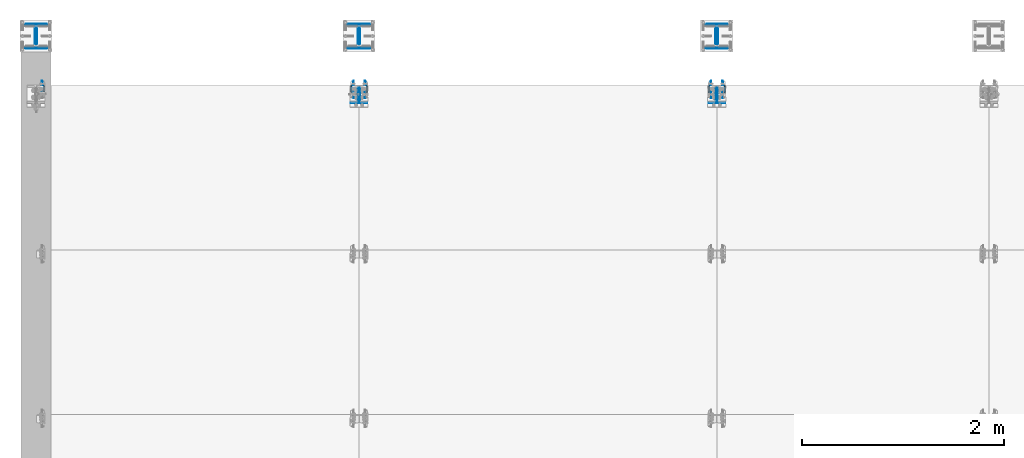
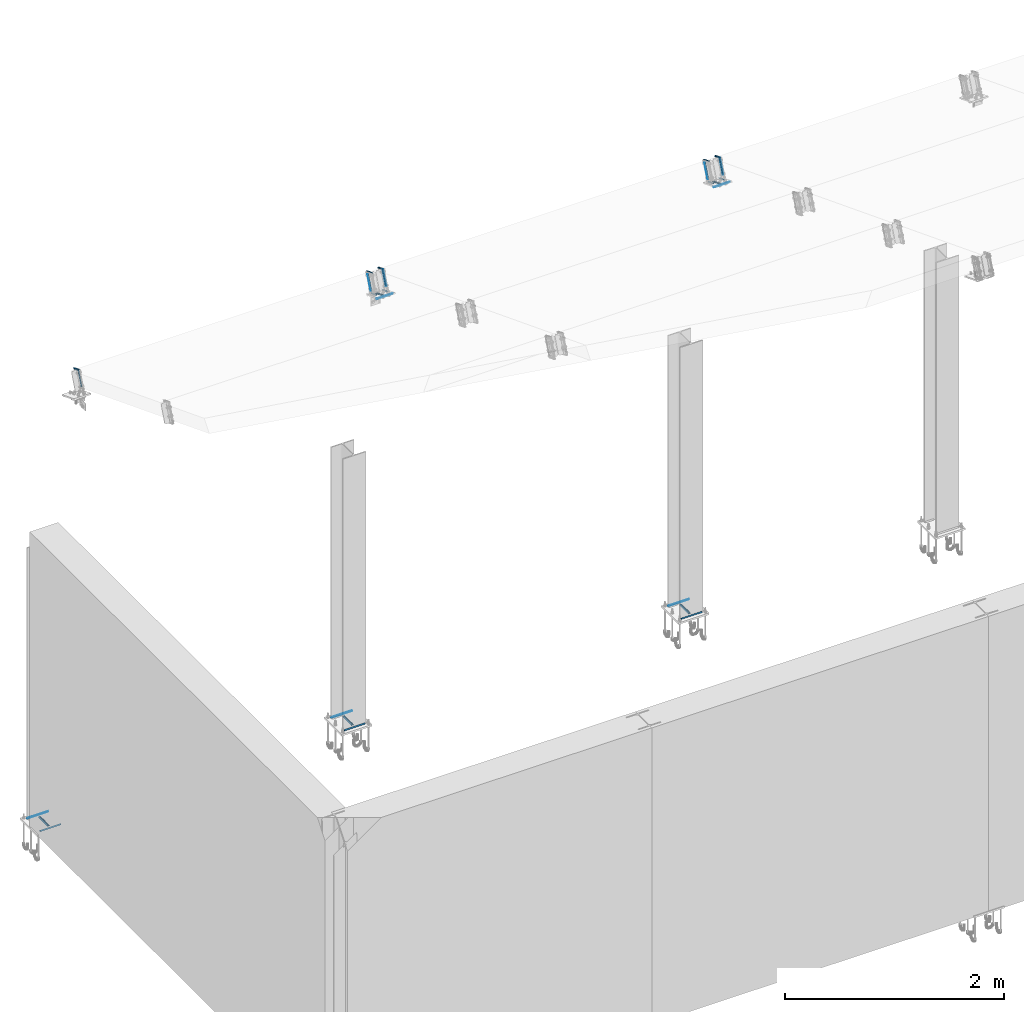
# One storey, part 15 of 72: 63 fasteners.
"""IFC4 building model written with IfcOpenShell, lengths in metres."""

from ifc_helpers import new_model, si_unit, frame, origin_with_axes, place, context, project, spatial, polyline, outline, extrude, type_object, element, save


model = new_model("IFC4")

# Units and contexts
model_context = context("Model", 3, precision=1e-05, world=origin_with_axes())
ifc_project = project(units=[si_unit("LENGTHUNIT", "METRE"), si_unit("AREAUNIT", "SQUARE_METRE"), si_unit("VOLUMEUNIT", "CUBIC_METRE"), si_unit("MASSUNIT", "GRAM", prefix="KILO"), si_unit("TIMEUNIT", "SECOND"), si_unit("PLANEANGLEUNIT", "RADIAN"), si_unit("SOLIDANGLEUNIT", "STERADIAN"), si_unit("THERMODYNAMICTEMPERATUREUNIT", "DEGREE_CELSIUS")], contexts=[model_context])

# Site, building, storey
placement_1 = place(None, origin_with_axes())
site = spatial("IfcSite", under=ifc_project, at=placement_1, Name="Italia", CompositionType="ELEMENT")
building = spatial("IfcBuilding", under=site, at=placement_1, Name="Uffici", CompositionType="ELEMENT")
storey = spatial("IfcBuildingStorey", under=building, at=placement_1, Name="Storey 0", CompositionType="ELEMENT", Elevation=0.0)

# Fasteners
fastener_type_1 = type_object("IfcFastenerType", Name="Collegamenti 0001_0101 0002_0102 0003_0103 0004_0104 0005_0105 0011_0111 0012_0112 0013_0113 0014_0114 0015_0115", PredefinedType="WELD")
placement_2 = place(placement_1, origin_with_axes())
fastener_1_placement = place(placement_2, origin_with_axes())
element("IfcFastener", 1, at=fastener_1_placement, inside=storey, type_object=fastener_type_1, Name="Collegamenti 0001_0101 0002_0102 0003_0103 0004_0104 0005_0105 0011_0111 0012_0112 0013_0113 0014_0114 0015_0115", context=model_context, shape_type="SweptSolid", body=[
    extrude(outline(polyline([(0.0, 0.0), (0.00986814, 0.0101734), (0.00986814, 0.0), (0.0, 0.0)])), frame((0.11005, 5.51482, 0.01995), z_axis=(-1.0, 0.0, 0.0), x_axis=(0.0, -1.0, 0.0)), (0.0, 0.0, 1.0), 0.2201),
])
fastener_type_2 = type_object("IfcFastenerType", Name="Collegamenti 0001_0101 0002_0102 0003_0103 0004_0104 0005_0105 0011_0111 0012_0112 0013_0113 0014_0114 0015_0115", PredefinedType="WELD")
fastener_2_placement = place(placement_2, origin_with_axes())
element("IfcFastener", 2, at=fastener_2_placement, inside=storey, type_object=fastener_type_2, Name="Collegamenti 0001_0101 0002_0102 0003_0103 0004_0104 0005_0105 0011_0111 0012_0112 0013_0113 0014_0114 0015_0115", context=model_context, shape_type="SweptSolid", body=[
    extrude(outline(polyline([(0.0, 0.0), (0.00986814, 0.0101734), (0.00986814, 0.0), (0.0, 0.0)])), frame((-0.11005, 5.26518, 0.01995), z_axis=(1.0, 0.0, 0.0), x_axis=(0.0, 1.0, 0.0)), (0.0, 0.0, 1.0), 0.2201),
])
fastener_type_3 = type_object("IfcFastenerType", Name="Collegamenti 0001_0101 0002_0102 0003_0103 0004_0104 0005_0105 0011_0111 0012_0112 0013_0113 0014_0114 0015_0115", PredefinedType="WELD")
fastener_3_placement = place(placement_2, origin_with_axes())
element("IfcFastener", 3, at=fastener_3_placement, inside=storey, type_object=fastener_type_3, Name="Collegamenti 0001_0101 0002_0102 0003_0103 0004_0104 0005_0105 0011_0111 0012_0112 0013_0113 0014_0114 0015_0115", context=model_context, shape_type="SweptSolid", body=[
    extrude(outline(polyline([(0.0, 0.0), (0.00986816, 0.0101734), (0.00986816, 0.0), (0.0, 0.0)])), frame((0.0135682, 5.30795, 0.01995), z_axis=(1.1350692e-08, 1.0, 0.0), x_axis=(-1.0, 1.1350692e-08, 0.0)), (0.0, 0.0, 1.0), 0.1641),
])
fastener_type_4 = type_object("IfcFastenerType", Name="Collegamenti 0001_0101 0002_0102 0003_0103 0004_0104 0005_0105 0011_0111 0012_0112 0013_0113 0014_0114 0015_0115", PredefinedType="WELD")
fastener_4_placement = place(placement_2, origin_with_axes())
element("IfcFastener", 4, at=fastener_4_placement, inside=storey, type_object=fastener_type_4, Name="Collegamenti 0001_0101 0002_0102 0003_0103 0004_0104 0005_0105 0011_0111 0012_0112 0013_0113 0014_0114 0015_0115", context=model_context, shape_type="SweptSolid", body=[
    extrude(outline(polyline([(0.0, 0.0), (0.00986816, 0.0101734), (0.00986816, 0.0), (0.0, 0.0)])), frame((-0.0135682, 5.47205, 0.01995), z_axis=(-1.1350692e-08, -1.0, 0.0), x_axis=(1.0, -1.1350692e-08, 0.0)), (0.0, 0.0, 1.0), 0.1641),
])
fastener_type_5 = type_object("IfcFastenerType", Name="Collegamenti 0001_0101 0002_0102 0003_0103 0004_0104 0005_0105 0011_0111 0012_0112 0013_0113 0014_0114 0015_0115", PredefinedType="WELD")
fastener_5_placement = place(placement_2, origin_with_axes())
element("IfcFastener", 5, at=fastener_5_placement, inside=storey, type_object=fastener_type_5, Name="Collegamenti 0001_0101 0002_0102 0003_0103 0004_0104 0005_0105 0011_0111 0012_0112 0013_0113 0014_0114 0015_0115", context=model_context, shape_type="SweptSolid", body=[
    extrude(outline(polyline([(0.0, 0.0), (0.00986814, 0.0101734), (0.00986814, 0.0), (0.0, 0.0)])), frame((0.11005, 5.51482, 0.01995), z_axis=(-1.0, 0.0, 0.0), x_axis=(0.0, -1.0, 0.0)), (0.0, 0.0, 1.0), 0.2201),
])
fastener_type_6 = type_object("IfcFastenerType", Name="Collegamenti 0001_0101 0002_0102 0003_0103 0004_0104 0005_0105 0011_0111 0012_0112 0013_0113 0014_0114 0015_0115", PredefinedType="WELD")
fastener_6_placement = place(placement_2, origin_with_axes())
element("IfcFastener", 6, at=fastener_6_placement, inside=storey, type_object=fastener_type_6, Name="Collegamenti 0001_0101 0002_0102 0003_0103 0004_0104 0005_0105 0011_0111 0012_0112 0013_0113 0014_0114 0015_0115", context=model_context, shape_type="SweptSolid", body=[
    extrude(outline(polyline([(0.0, 0.0), (0.00986814, 0.0101734), (0.00986814, 0.0), (0.0, 0.0)])), frame((-0.11005, 5.26518, 0.01995), z_axis=(1.0, 0.0, 0.0), x_axis=(0.0, 1.0, 0.0)), (0.0, 0.0, 1.0), 0.2201),
])
fastener_type_7 = type_object("IfcFastenerType", Name="Collegamenti 0001_0101 0002_0102 0003_0103 0004_0104 0005_0105 0011_0111 0012_0112 0013_0113 0014_0114 0015_0115", PredefinedType="WELD")
fastener_7_placement = place(placement_2, origin_with_axes())
element("IfcFastener", 7, at=fastener_7_placement, inside=storey, type_object=fastener_type_7, Name="Collegamenti 0001_0101 0002_0102 0003_0103 0004_0104 0005_0105 0011_0111 0012_0112 0013_0113 0014_0114 0015_0115", context=model_context, shape_type="SweptSolid", body=[
    extrude(outline(polyline([(0.0, 0.0), (0.00986816, 0.0101734), (0.00986816, 0.0), (0.0, 0.0)])), frame((0.0135682, 5.30795, 0.01995), z_axis=(1.1350692e-08, 1.0, 0.0), x_axis=(-1.0, 1.1350692e-08, 0.0)), (0.0, 0.0, 1.0), 0.1641),
])
fastener_type_8 = type_object("IfcFastenerType", Name="Collegamenti 0001_0101 0002_0102 0003_0103 0004_0104 0005_0105 0011_0111 0012_0112 0013_0113 0014_0114 0015_0115", PredefinedType="WELD")
fastener_8_placement = place(placement_2, origin_with_axes())
element("IfcFastener", 8, at=fastener_8_placement, inside=storey, type_object=fastener_type_8, Name="Collegamenti 0001_0101 0002_0102 0003_0103 0004_0104 0005_0105 0011_0111 0012_0112 0013_0113 0014_0114 0015_0115", context=model_context, shape_type="SweptSolid", body=[
    extrude(outline(polyline([(0.0, 0.0), (0.00986816, 0.0101734), (0.00986816, 0.0), (0.0, 0.0)])), frame((-0.0135682, 5.47205, 0.01995), z_axis=(-1.1350692e-08, -1.0, 0.0), x_axis=(1.0, -1.1350692e-08, 0.0)), (0.0, 0.0, 1.0), 0.1641),
])
fastener_type_9 = type_object("IfcFastenerType", Name="Collegamenti 0001_0101 0002_0102 0003_0103 0004_0104 0005_0105 0011_0111 0012_0112 0013_0113 0014_0114 0015_0115", PredefinedType="WELD")
fastener_9_placement = place(placement_2, origin_with_axes())
element("IfcFastener", 9, at=fastener_9_placement, inside=storey, type_object=fastener_type_9, Name="Collegamenti 0001_0101 0002_0102 0003_0103 0004_0104 0005_0105 0011_0111 0012_0112 0013_0113 0014_0114 0015_0115", context=model_context, shape_type="SweptSolid", body=[
    extrude(outline(polyline([(0.0, 0.0), (0.00986814, 0.0101734), (0.00986814, 0.0), (0.0, 0.0)])), frame((3.31505, 5.51482, 0.01995), z_axis=(-1.0, 0.0, 0.0), x_axis=(0.0, -1.0, 0.0)), (0.0, 0.0, 1.0), 0.2201),
])
fastener_type_10 = type_object("IfcFastenerType", Name="Collegamenti 0001_0101 0002_0102 0003_0103 0004_0104 0005_0105 0011_0111 0012_0112 0013_0113 0014_0114 0015_0115", PredefinedType="WELD")
fastener_10_placement = place(placement_2, origin_with_axes())
element("IfcFastener", 10, at=fastener_10_placement, inside=storey, type_object=fastener_type_10, Name="Collegamenti 0001_0101 0002_0102 0003_0103 0004_0104 0005_0105 0011_0111 0012_0112 0013_0113 0014_0114 0015_0115", context=model_context, shape_type="SweptSolid", body=[
    extrude(outline(polyline([(0.0, 0.0), (0.00986814, 0.0101734), (0.00986814, 0.0), (0.0, 0.0)])), frame((3.09495, 5.26518, 0.01995), z_axis=(1.0, 0.0, 0.0), x_axis=(0.0, 1.0, 0.0)), (0.0, 0.0, 1.0), 0.2201),
])
fastener_type_11 = type_object("IfcFastenerType", Name="Collegamenti 0001_0101 0002_0102 0003_0103 0004_0104 0005_0105 0011_0111 0012_0112 0013_0113 0014_0114 0015_0115", PredefinedType="WELD")
fastener_11_placement = place(placement_2, origin_with_axes())
element("IfcFastener", 11, at=fastener_11_placement, inside=storey, type_object=fastener_type_11, Name="Collegamenti 0001_0101 0002_0102 0003_0103 0004_0104 0005_0105 0011_0111 0012_0112 0013_0113 0014_0114 0015_0115", context=model_context, shape_type="SweptSolid", body=[
    extrude(outline(polyline([(0.0, 0.0), (0.00986814, 0.0101734), (0.00986814, 0.0), (0.0, 0.0)])), frame((3.21857, 5.30795, 0.01995), z_axis=(0.0, 1.0, 0.0), x_axis=(-1.0, 0.0, 0.0)), (0.0, 0.0, 1.0), 0.1641),
])
fastener_type_12 = type_object("IfcFastenerType", Name="Collegamenti 0001_0101 0002_0102 0003_0103 0004_0104 0005_0105 0011_0111 0012_0112 0013_0113 0014_0114 0015_0115", PredefinedType="WELD")
fastener_12_placement = place(placement_2, origin_with_axes())
element("IfcFastener", 12, at=fastener_12_placement, inside=storey, type_object=fastener_type_12, Name="Collegamenti 0001_0101 0002_0102 0003_0103 0004_0104 0005_0105 0011_0111 0012_0112 0013_0113 0014_0114 0015_0115", context=model_context, shape_type="SweptSolid", body=[
    extrude(outline(polyline([(0.0, 0.0), (0.00986814, 0.0101734), (0.00986814, 0.0), (0.0, 0.0)])), frame((3.19143, 5.47205, 0.01995), z_axis=(0.0, -1.0, 0.0), x_axis=(1.0, 0.0, 0.0)), (0.0, 0.0, 1.0), 0.1641),
])
fastener_type_13 = type_object("IfcFastenerType", Name="Collegamenti 0001_0101 0002_0102 0003_0103 0004_0104 0005_0105 0011_0111 0012_0112 0013_0113 0014_0114 0015_0115", PredefinedType="WELD")
fastener_13_placement = place(placement_2, origin_with_axes())
element("IfcFastener", 13, at=fastener_13_placement, inside=storey, type_object=fastener_type_13, Name="Collegamenti 0001_0101 0002_0102 0003_0103 0004_0104 0005_0105 0011_0111 0012_0112 0013_0113 0014_0114 0015_0115", context=model_context, shape_type="SweptSolid", body=[
    extrude(outline(polyline([(0.0, 0.0), (0.00986814, 0.0101734), (0.00986814, 0.0), (0.0, 0.0)])), frame((3.31505, 5.51482, 0.01995), z_axis=(-1.0, 0.0, 0.0), x_axis=(0.0, -1.0, 0.0)), (0.0, 0.0, 1.0), 0.2201),
])
fastener_type_14 = type_object("IfcFastenerType", Name="Collegamenti 0001_0101 0002_0102 0003_0103 0004_0104 0005_0105 0011_0111 0012_0112 0013_0113 0014_0114 0015_0115", PredefinedType="WELD")
fastener_14_placement = place(placement_2, origin_with_axes())
element("IfcFastener", 14, at=fastener_14_placement, inside=storey, type_object=fastener_type_14, Name="Collegamenti 0001_0101 0002_0102 0003_0103 0004_0104 0005_0105 0011_0111 0012_0112 0013_0113 0014_0114 0015_0115", context=model_context, shape_type="SweptSolid", body=[
    extrude(outline(polyline([(0.0, 0.0), (0.00986814, 0.0101734), (0.00986814, 0.0), (0.0, 0.0)])), frame((3.09495, 5.26518, 0.01995), z_axis=(1.0, 0.0, 0.0), x_axis=(0.0, 1.0, 0.0)), (0.0, 0.0, 1.0), 0.2201),
])
fastener_type_15 = type_object("IfcFastenerType", Name="Collegamenti 0001_0101 0002_0102 0003_0103 0004_0104 0005_0105 0011_0111 0012_0112 0013_0113 0014_0114 0015_0115", PredefinedType="WELD")
fastener_15_placement = place(placement_2, origin_with_axes())
element("IfcFastener", 15, at=fastener_15_placement, inside=storey, type_object=fastener_type_15, Name="Collegamenti 0001_0101 0002_0102 0003_0103 0004_0104 0005_0105 0011_0111 0012_0112 0013_0113 0014_0114 0015_0115", context=model_context, shape_type="SweptSolid", body=[
    extrude(outline(polyline([(0.0, 0.0), (0.00986814, 0.0101734), (0.00986814, 0.0), (0.0, 0.0)])), frame((3.21857, 5.30795, 0.01995), z_axis=(0.0, 1.0, 0.0), x_axis=(-1.0, 0.0, 0.0)), (0.0, 0.0, 1.0), 0.1641),
])
fastener_type_16 = type_object("IfcFastenerType", Name="Collegamenti 0001_0101 0002_0102 0003_0103 0004_0104 0005_0105 0011_0111 0012_0112 0013_0113 0014_0114 0015_0115", PredefinedType="WELD")
fastener_16_placement = place(placement_2, origin_with_axes())
element("IfcFastener", 16, at=fastener_16_placement, inside=storey, type_object=fastener_type_16, Name="Collegamenti 0001_0101 0002_0102 0003_0103 0004_0104 0005_0105 0011_0111 0012_0112 0013_0113 0014_0114 0015_0115", context=model_context, shape_type="SweptSolid", body=[
    extrude(outline(polyline([(0.0, 0.0), (0.00986814, 0.0101734), (0.00986814, 0.0), (0.0, 0.0)])), frame((3.19143, 5.47205, 0.01995), z_axis=(0.0, -1.0, 0.0), x_axis=(1.0, 0.0, 0.0)), (0.0, 0.0, 1.0), 0.1641),
])
fastener_type_17 = type_object("IfcFastenerType", Name="Collegamenti 0001_0101 0002_0102 0003_0103 0004_0104 0005_0105 0011_0111 0012_0112 0013_0113 0014_0114 0015_0115", PredefinedType="WELD")
fastener_17_placement = place(placement_2, origin_with_axes())
element("IfcFastener", 17, at=fastener_17_placement, inside=storey, type_object=fastener_type_17, Name="Collegamenti 0001_0101 0002_0102 0003_0103 0004_0104 0005_0105 0011_0111 0012_0112 0013_0113 0014_0114 0015_0115", context=model_context, shape_type="SweptSolid", body=[
    extrude(outline(polyline([(0.0, 0.0), (0.00986814, 0.0101734), (0.00986814, 0.0), (0.0, 0.0)])), frame((6.86505, 5.51482, 0.01995), z_axis=(-1.0, 0.0, 0.0), x_axis=(0.0, -1.0, 0.0)), (0.0, 0.0, 1.0), 0.2201),
])
fastener_type_18 = type_object("IfcFastenerType", Name="Collegamenti 0001_0101 0002_0102 0003_0103 0004_0104 0005_0105 0011_0111 0012_0112 0013_0113 0014_0114 0015_0115", PredefinedType="WELD")
fastener_18_placement = place(placement_2, origin_with_axes())
element("IfcFastener", 18, at=fastener_18_placement, inside=storey, type_object=fastener_type_18, Name="Collegamenti 0001_0101 0002_0102 0003_0103 0004_0104 0005_0105 0011_0111 0012_0112 0013_0113 0014_0114 0015_0115", context=model_context, shape_type="SweptSolid", body=[
    extrude(outline(polyline([(0.0, 0.0), (0.00986814, 0.0101734), (0.00986814, 0.0), (0.0, 0.0)])), frame((6.64495, 5.26518, 0.01995), z_axis=(1.0, 0.0, 0.0), x_axis=(0.0, 1.0, 0.0)), (0.0, 0.0, 1.0), 0.2201),
])
fastener_type_19 = type_object("IfcFastenerType", Name="Collegamenti 0001_0101 0002_0102 0003_0103 0004_0104 0005_0105 0011_0111 0012_0112 0013_0113 0014_0114 0015_0115", PredefinedType="WELD")
fastener_19_placement = place(placement_2, origin_with_axes())
element("IfcFastener", 19, at=fastener_19_placement, inside=storey, type_object=fastener_type_19, Name="Collegamenti 0001_0101 0002_0102 0003_0103 0004_0104 0005_0105 0011_0111 0012_0112 0013_0113 0014_0114 0015_0115", context=model_context, shape_type="SweptSolid", body=[
    extrude(outline(polyline([(0.0, 0.0), (0.00986814, 0.0101734), (0.00986814, 0.0), (0.0, 0.0)])), frame((6.76857, 5.30795, 0.01995), z_axis=(0.0, 1.0, 0.0), x_axis=(-1.0, 0.0, 0.0)), (0.0, 0.0, 1.0), 0.1641),
])
fastener_type_20 = type_object("IfcFastenerType", Name="Collegamenti 0001_0101 0002_0102 0003_0103 0004_0104 0005_0105 0011_0111 0012_0112 0013_0113 0014_0114 0015_0115", PredefinedType="WELD")
fastener_20_placement = place(placement_2, origin_with_axes())
element("IfcFastener", 20, at=fastener_20_placement, inside=storey, type_object=fastener_type_20, Name="Collegamenti 0001_0101 0002_0102 0003_0103 0004_0104 0005_0105 0011_0111 0012_0112 0013_0113 0014_0114 0015_0115", context=model_context, shape_type="SweptSolid", body=[
    extrude(outline(polyline([(0.0, 0.0), (0.00986814, 0.0101734), (0.00986814, 0.0), (0.0, 0.0)])), frame((6.74143, 5.47205, 0.01995), z_axis=(0.0, -1.0, 0.0), x_axis=(1.0, 0.0, 0.0)), (0.0, 0.0, 1.0), 0.1641),
])
fastener_type_21 = type_object("IfcFastenerType", Name="Collegamenti 0001_0101 0002_0102 0003_0103 0004_0104 0005_0105 0011_0111 0012_0112 0013_0113 0014_0114 0015_0115", PredefinedType="WELD")
fastener_21_placement = place(placement_2, origin_with_axes())
element("IfcFastener", 21, at=fastener_21_placement, inside=storey, type_object=fastener_type_21, Name="Collegamenti 0001_0101 0002_0102 0003_0103 0004_0104 0005_0105 0011_0111 0012_0112 0013_0113 0014_0114 0015_0115", context=model_context, shape_type="SweptSolid", body=[
    extrude(outline(polyline([(0.0, 0.0), (0.00986814, 0.0101734), (0.00986814, 0.0), (0.0, 0.0)])), frame((6.86505, 5.51482, 0.01995), z_axis=(-1.0, 0.0, 0.0), x_axis=(0.0, -1.0, 0.0)), (0.0, 0.0, 1.0), 0.2201),
])
fastener_type_22 = type_object("IfcFastenerType", Name="Collegamenti 0001_0101 0002_0102 0003_0103 0004_0104 0005_0105 0011_0111 0012_0112 0013_0113 0014_0114 0015_0115", PredefinedType="WELD")
fastener_22_placement = place(placement_2, origin_with_axes())
element("IfcFastener", 22, at=fastener_22_placement, inside=storey, type_object=fastener_type_22, Name="Collegamenti 0001_0101 0002_0102 0003_0103 0004_0104 0005_0105 0011_0111 0012_0112 0013_0113 0014_0114 0015_0115", context=model_context, shape_type="SweptSolid", body=[
    extrude(outline(polyline([(0.0, 0.0), (0.00986814, 0.0101734), (0.00986814, 0.0), (0.0, 0.0)])), frame((6.64495, 5.26518, 0.01995), z_axis=(1.0, 0.0, 0.0), x_axis=(0.0, 1.0, 0.0)), (0.0, 0.0, 1.0), 0.2201),
])
fastener_type_23 = type_object("IfcFastenerType", Name="Collegamenti 0001_0101 0002_0102 0003_0103 0004_0104 0005_0105 0011_0111 0012_0112 0013_0113 0014_0114 0015_0115", PredefinedType="WELD")
fastener_23_placement = place(placement_2, origin_with_axes())
element("IfcFastener", 23, at=fastener_23_placement, inside=storey, type_object=fastener_type_23, Name="Collegamenti 0001_0101 0002_0102 0003_0103 0004_0104 0005_0105 0011_0111 0012_0112 0013_0113 0014_0114 0015_0115", context=model_context, shape_type="SweptSolid", body=[
    extrude(outline(polyline([(0.0, 0.0), (0.00986814, 0.0101734), (0.00986814, 0.0), (0.0, 0.0)])), frame((6.76857, 5.30795, 0.01995), z_axis=(0.0, 1.0, 0.0), x_axis=(-1.0, 0.0, 0.0)), (0.0, 0.0, 1.0), 0.1641),
])
fastener_type_24 = type_object("IfcFastenerType", Name="Collegamenti 0001_0101 0002_0102 0003_0103 0004_0104 0005_0105 0011_0111 0012_0112 0013_0113 0014_0114 0015_0115", PredefinedType="WELD")
fastener_24_placement = place(placement_2, origin_with_axes())
element("IfcFastener", 24, at=fastener_24_placement, inside=storey, type_object=fastener_type_24, Name="Collegamenti 0001_0101 0002_0102 0003_0103 0004_0104 0005_0105 0011_0111 0012_0112 0013_0113 0014_0114 0015_0115", context=model_context, shape_type="SweptSolid", body=[
    extrude(outline(polyline([(0.0, 0.0), (0.00986814, 0.0101734), (0.00986814, 0.0), (0.0, 0.0)])), frame((6.74143, 5.47205, 0.01995), z_axis=(0.0, -1.0, 0.0), x_axis=(1.0, 0.0, 0.0)), (0.0, 0.0, 1.0), 0.1641),
])
fastener_type_25 = type_object("IfcFastenerType", Name="Collegamento 0206_0207", PredefinedType="WELD")
fastener_25_placement = place(placement_2, origin_with_axes())
element("IfcFastener", 25, at=fastener_25_placement, inside=storey, type_object=fastener_type_25, Name="Collegamento 0206_0207", context=model_context, shape_type="SweptSolid", body=[
    extrude(outline(polyline([(0.0, 0.0), (-0.00717336, 0.00695801), (0.0, 0.00695801), (0.0, 0.0)])), frame((0.07495, 4.84415, 5.16908), z_axis=(0.0, 0.361460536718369, 0.932387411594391), x_axis=(-1.0, 0.0, 0.0)), (0.0, 0.0, 1.0), 0.1591),
])
fastener_type_26 = type_object("IfcFastenerType", Name="Collegamento 0206_0207", PredefinedType="WELD")
fastener_26_placement = place(placement_2, origin_with_axes())
element("IfcFastener", 26, at=fastener_26_placement, inside=storey, type_object=fastener_type_26, Name="Collegamento 0206_0207", context=model_context, shape_type="SweptSolid", body=[
    extrude(outline(polyline([(0.0, 0.0), (-0.00717336, 0.00695801), (0.0, 0.00695801), (0.0, 0.0)])), frame((0.07495, 4.84415, 5.16908), z_axis=(0.0, 0.361460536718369, 0.932387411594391), x_axis=(-1.0, 0.0, 0.0)), (0.0, 0.0, 1.0), 0.1591),
])
fastener_type_27 = type_object("IfcFastenerType", Name="Collegamento 0206_0207", PredefinedType="WELD")
fastener_27_placement = place(placement_2, origin_with_axes())
element("IfcFastener", 27, at=fastener_27_placement, inside=storey, type_object=fastener_type_27, Name="Collegamento 0206_0207", context=model_context, shape_type="SweptSolid", body=[
    extrude(outline(polyline([(0.0, 0.0), (-0.00937336, 0.00909281), (0.0, 0.00909281), (0.0, 0.0)])), frame((0.05495, 4.85011, 5.34978), z_axis=(0.0, 0.932387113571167, -0.361461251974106), x_axis=(-1.0, 0.0, 0.0)), (0.0, 0.0, 1.0), 0.1001),
])
fastener_type_28 = type_object("IfcFastenerType", Name="Collegamento 0207_0107", PredefinedType="WELD")
fastener_28_placement = place(placement_2, origin_with_axes())
element("IfcFastener", 28, at=fastener_28_placement, inside=storey, type_object=fastener_type_28, Name="Collegamento 0207_0107", context=model_context, shape_type="SweptSolid", body=[
    extrude(outline(polyline([(0.0, 0.0), (-0.00443697, -0.0104866), (-0.00739193, -0.00286627), (0.0, 0.0)])), frame((3.28705, 4.72167, 5.15715), z_axis=(-1.0, 0.0, 0.0), x_axis=(0.0, -1.0, 0.0)), (0.0, 0.0, 1.0), 0.1641),
])
fastener_type_29 = type_object("IfcFastenerType", Name="Collegamento 0207_0107", PredefinedType="WELD")
fastener_29_placement = place(placement_2, origin_with_axes())
element("IfcFastener", 29, at=fastener_29_placement, inside=storey, type_object=fastener_type_29, Name="Collegamento 0207_0107", context=model_context, shape_type="SweptSolid", body=[
    extrude(outline(polyline([(0.0, 0.0), (-0.00792813, -0.00817347), (-0.00792813, 0.0), (0.0, 0.0)])), frame((3.21588, 4.87658, 5.09709), z_axis=(0.0, -0.932360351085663, 0.361530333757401), x_axis=(1.0, 0.0, 0.0)), (0.0, 0.0, 1.0), 0.133127),
])
fastener_type_30 = type_object("IfcFastenerType", Name="Collegamento 0207_0107", PredefinedType="WELD")
fastener_30_placement = place(placement_2, origin_with_axes())
element("IfcFastener", 30, at=fastener_30_placement, inside=storey, type_object=fastener_type_30, Name="Collegamento 0207_0107", context=model_context, shape_type="SweptSolid", body=[
    extrude(outline(polyline([(0.0, 0.0), (-0.00792813, -0.00817347), (-0.00792813, 0.0), (0.0, 0.0)])), frame((3.19412, 4.75246, 5.14522), z_axis=(0.0, 0.932360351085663, -0.361530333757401), x_axis=(-1.0, 0.0, 0.0)), (0.0, 0.0, 1.0), 0.133127),
])
fastener_type_31 = type_object("IfcFastenerType", Name="Collegamento 0207_0107", PredefinedType="WELD")
fastener_31_placement = place(placement_2, origin_with_axes())
element("IfcFastener", 31, at=fastener_31_placement, inside=storey, type_object=fastener_type_31, Name="Collegamento 0207_0107", context=model_context, shape_type="SweptSolid", body=[
    extrude(outline(polyline([(0.0, 0.0), (-0.00443697, -0.0104866), (-0.00739193, -0.00286627), (0.0, 0.0)])), frame((3.28705, 4.72167, 5.15715), z_axis=(-1.0, 0.0, 0.0), x_axis=(0.0, -1.0, 0.0)), (0.0, 0.0, 1.0), 0.1641),
])
fastener_type_32 = type_object("IfcFastenerType", Name="Collegamento 0207_0107", PredefinedType="WELD")
fastener_32_placement = place(placement_2, origin_with_axes())
element("IfcFastener", 32, at=fastener_32_placement, inside=storey, type_object=fastener_type_32, Name="Collegamento 0207_0107", context=model_context, shape_type="SweptSolid", body=[
    extrude(outline(polyline([(0.0, 0.0), (-0.00792813, -0.00817347), (-0.00792813, 0.0), (0.0, 0.0)])), frame((3.21588, 4.87658, 5.09709), z_axis=(0.0, -0.932360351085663, 0.361530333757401), x_axis=(1.0, 0.0, 0.0)), (0.0, 0.0, 1.0), 0.133127),
])
fastener_type_33 = type_object("IfcFastenerType", Name="Collegamento 0207_0107", PredefinedType="WELD")
fastener_33_placement = place(placement_2, origin_with_axes())
element("IfcFastener", 33, at=fastener_33_placement, inside=storey, type_object=fastener_type_33, Name="Collegamento 0207_0107", context=model_context, shape_type="SweptSolid", body=[
    extrude(outline(polyline([(0.0, 0.0), (-0.00792813, -0.00817347), (-0.00792813, 0.0), (0.0, 0.0)])), frame((3.19412, 4.75246, 5.14522), z_axis=(0.0, 0.932360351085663, -0.361530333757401), x_axis=(-1.0, 0.0, 0.0)), (0.0, 0.0, 1.0), 0.133127),
])
fastener_type_34 = type_object("IfcFastenerType", Name="Collegamento 0207_0206", PredefinedType="WELD")
fastener_34_placement = place(placement_2, origin_with_axes())
element("IfcFastener", 34, at=fastener_34_placement, inside=storey, type_object=fastener_type_34, Name="Collegamento 0207_0206", context=model_context, shape_type="SweptSolid", body=[
    extrude(outline(polyline([(0.0, 0.0), (-0.00717354, 0.00695801), (0.0, 0.00695801), (0.0, 0.0)])), frame((3.13005, 4.90166, 5.31742), z_axis=(0.0, -0.361460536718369, -0.932387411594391), x_axis=(1.0, 0.0, 0.0)), (0.0, 0.0, 1.0), 0.1591),
])
fastener_type_35 = type_object("IfcFastenerType", Name="Collegamento 0207_0206", PredefinedType="WELD")
fastener_35_placement = place(placement_2, origin_with_axes())
element("IfcFastener", 35, at=fastener_35_placement, inside=storey, type_object=fastener_type_35, Name="Collegamento 0207_0206", context=model_context, shape_type="SweptSolid", body=[
    extrude(outline(polyline([(0.0, 0.0), (0.00717354, -0.00695848), (0.0, -0.00695848), (0.0, 0.0)])), frame((3.13005, 4.82605, 5.1761), z_axis=(0.0, 0.361463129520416, 0.93238639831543), x_axis=(-1.0, 0.0, 0.0)), (0.0, 0.0, 1.0), 0.1591),
])
fastener_type_36 = type_object("IfcFastenerType", Name="Collegamento 0207_0206", PredefinedType="WELD")
fastener_36_placement = place(placement_2, origin_with_axes())
element("IfcFastener", 36, at=fastener_36_placement, inside=storey, type_object=fastener_type_36, Name="Collegamento 0207_0206", context=model_context, shape_type="SweptSolid", body=[
    extrude(outline(polyline([(0.0, 0.0), (-0.00717354, 0.00695801), (0.0, 0.00695801), (0.0, 0.0)])), frame((3.13005, 4.90166, 5.31742), z_axis=(0.0, -0.361460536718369, -0.932387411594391), x_axis=(1.0, 0.0, 0.0)), (0.0, 0.0, 1.0), 0.1591),
])
fastener_type_37 = type_object("IfcFastenerType", Name="Collegamento 0207_0206", PredefinedType="WELD")
fastener_37_placement = place(placement_2, origin_with_axes())
element("IfcFastener", 37, at=fastener_37_placement, inside=storey, type_object=fastener_type_37, Name="Collegamento 0207_0206", context=model_context, shape_type="SweptSolid", body=[
    extrude(outline(polyline([(0.0, 0.0), (0.00717354, -0.00695848), (0.0, -0.00695848), (0.0, 0.0)])), frame((3.13005, 4.82605, 5.1761), z_axis=(0.0, 0.361463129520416, 0.93238639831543), x_axis=(-1.0, 0.0, 0.0)), (0.0, 0.0, 1.0), 0.1591),
])
fastener_type_38 = type_object("IfcFastenerType", Name="Collegamento 0207_0206", PredefinedType="WELD")
fastener_38_placement = place(placement_2, origin_with_axes())
element("IfcFastener", 38, at=fastener_38_placement, inside=storey, type_object=fastener_type_38, Name="Collegamento 0207_0206", context=model_context, shape_type="SweptSolid", body=[
    extrude(outline(polyline([(0.0, 0.0), (0.00937343, -0.00909185), (0.0, -0.00909185), (0.0, 0.0)])), frame((3.15005, 4.77713, 5.16151), z_axis=(0.0, 0.932387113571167, -0.361461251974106), x_axis=(-1.0, 0.0, 0.0)), (0.0, 0.0, 1.0), 0.1001),
])
fastener_type_39 = type_object("IfcFastenerType", Name="Collegamento 0207_0206", PredefinedType="WELD")
fastener_39_placement = place(placement_2, origin_with_axes())
element("IfcFastener", 39, at=fastener_39_placement, inside=storey, type_object=fastener_type_39, Name="Collegamento 0207_0206", context=model_context, shape_type="SweptSolid", body=[
    extrude(outline(polyline([(0.0, 0.0), (-0.00937343, 0.00909233), (0.0, 0.00909233), (0.0, 0.0)])), frame((3.15005, 4.94344, 5.31359), z_axis=(0.0, -0.932387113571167, 0.361461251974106), x_axis=(1.0, 0.0, 0.0)), (0.0, 0.0, 1.0), 0.1001),
])
fastener_type_40 = type_object("IfcFastenerType", Name="Collegamento 0207_0208", PredefinedType="WELD")
fastener_40_placement = place(placement_2, origin_with_axes())
element("IfcFastener", 40, at=fastener_40_placement, inside=storey, type_object=fastener_type_40, Name="Collegamento 0207_0208", context=model_context, shape_type="SweptSolid", body=[
    extrude(outline(polyline([(0.0, 0.0), (-0.00717354, 0.00695801), (0.0, 0.00695801), (0.0, 0.0)])), frame((3.27995, 4.84415, 5.16908), z_axis=(0.0, 0.361460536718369, 0.932387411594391), x_axis=(-1.0, 0.0, 0.0)), (0.0, 0.0, 1.0), 0.1591),
])
fastener_type_41 = type_object("IfcFastenerType", Name="Collegamento 0207_0208", PredefinedType="WELD")
fastener_41_placement = place(placement_2, origin_with_axes())
element("IfcFastener", 41, at=fastener_41_placement, inside=storey, type_object=fastener_type_41, Name="Collegamento 0207_0208", context=model_context, shape_type="SweptSolid", body=[
    extrude(outline(polyline([(0.0, 0.0), (0.00717354, -0.00695801), (0.0, -0.00695801), (0.0, 0.0)])), frame((3.27995, 4.88356, 5.32444), z_axis=(0.0, -0.361463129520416, -0.93238639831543), x_axis=(1.0, 0.0, 0.0)), (0.0, 0.0, 1.0), 0.1591),
])
fastener_type_42 = type_object("IfcFastenerType", Name="Collegamento 0207_0208", PredefinedType="WELD")
fastener_42_placement = place(placement_2, origin_with_axes())
element("IfcFastener", 42, at=fastener_42_placement, inside=storey, type_object=fastener_type_42, Name="Collegamento 0207_0208", context=model_context, shape_type="SweptSolid", body=[
    extrude(outline(polyline([(0.0, 0.0), (-0.00717354, 0.00695801), (0.0, 0.00695801), (0.0, 0.0)])), frame((3.27995, 4.84415, 5.16908), z_axis=(0.0, 0.361460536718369, 0.932387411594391), x_axis=(-1.0, 0.0, 0.0)), (0.0, 0.0, 1.0), 0.1591),
])
fastener_type_43 = type_object("IfcFastenerType", Name="Collegamento 0207_0208", PredefinedType="WELD")
fastener_43_placement = place(placement_2, origin_with_axes())
element("IfcFastener", 43, at=fastener_43_placement, inside=storey, type_object=fastener_type_43, Name="Collegamento 0207_0208", context=model_context, shape_type="SweptSolid", body=[
    extrude(outline(polyline([(0.0, 0.0), (0.00717354, -0.00695801), (0.0, -0.00695801), (0.0, 0.0)])), frame((3.27995, 4.88356, 5.32444), z_axis=(0.0, -0.361463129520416, -0.93238639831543), x_axis=(1.0, 0.0, 0.0)), (0.0, 0.0, 1.0), 0.1591),
])
fastener_type_44 = type_object("IfcFastenerType", Name="Collegamento 0207_0208", PredefinedType="WELD")
fastener_44_placement = place(placement_2, origin_with_axes())
element("IfcFastener", 44, at=fastener_44_placement, inside=storey, type_object=fastener_type_44, Name="Collegamento 0207_0208", context=model_context, shape_type="SweptSolid", body=[
    extrude(outline(polyline([(0.0, 0.0), (0.00937343, -0.00909233), (0.0, -0.00909233), (0.0, 0.0)])), frame((3.25995, 4.87046, 5.12533), z_axis=(0.0, -0.932387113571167, 0.361461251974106), x_axis=(1.0, 0.0, 0.0)), (0.0, 0.0, 1.0), 0.1001),
])
fastener_type_45 = type_object("IfcFastenerType", Name="Collegamento 0207_0208", PredefinedType="WELD")
fastener_45_placement = place(placement_2, origin_with_axes())
element("IfcFastener", 45, at=fastener_45_placement, inside=storey, type_object=fastener_type_45, Name="Collegamento 0207_0208", context=model_context, shape_type="SweptSolid", body=[
    extrude(outline(polyline([(0.0, 0.0), (-0.00937343, 0.00909281), (0.0, 0.00909281), (0.0, 0.0)])), frame((3.25995, 4.85011, 5.34978), z_axis=(0.0, 0.932387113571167, -0.361461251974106), x_axis=(-1.0, 0.0, 0.0)), (0.0, 0.0, 1.0), 0.1001),
])
fastener_type_46 = type_object("IfcFastenerType", Name="Collegamento 0208_0108", PredefinedType="WELD")
fastener_46_placement = place(placement_2, origin_with_axes())
element("IfcFastener", 46, at=fastener_46_placement, inside=storey, type_object=fastener_type_46, Name="Collegamento 0208_0108", context=model_context, shape_type="SweptSolid", body=[
    extrude(outline(polyline([(0.0, 0.0), (-0.00443697, -0.0104866), (-0.00739193, -0.00286627), (0.0, 0.0)])), frame((6.83705, 4.72167, 5.15715), z_axis=(-1.0, 0.0, 0.0), x_axis=(0.0, -1.0, 0.0)), (0.0, 0.0, 1.0), 0.164101),
])
fastener_type_47 = type_object("IfcFastenerType", Name="Collegamento 0208_0108", PredefinedType="WELD")
fastener_47_placement = place(placement_2, origin_with_axes())
element("IfcFastener", 47, at=fastener_47_placement, inside=storey, type_object=fastener_type_47, Name="Collegamento 0208_0108", context=model_context, shape_type="SweptSolid", body=[
    extrude(outline(polyline([(0.0, 0.0), (-0.00792837, -0.00817347), (-0.00792837, 0.0), (0.0, 0.0)])), frame((6.76588, 4.87658, 5.09709), z_axis=(0.0, -0.932360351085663, 0.361530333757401), x_axis=(1.0, 0.0, 0.0)), (0.0, 0.0, 1.0), 0.133127),
])
fastener_type_48 = type_object("IfcFastenerType", Name="Collegamento 0208_0108", PredefinedType="WELD")
fastener_48_placement = place(placement_2, origin_with_axes())
element("IfcFastener", 48, at=fastener_48_placement, inside=storey, type_object=fastener_type_48, Name="Collegamento 0208_0108", context=model_context, shape_type="SweptSolid", body=[
    extrude(outline(polyline([(0.0, 0.0), (-0.00792837, -0.00817347), (-0.00792837, 0.0), (0.0, 0.0)])), frame((6.74412, 4.75246, 5.14522), z_axis=(0.0, 0.932360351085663, -0.361530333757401), x_axis=(-1.0, 0.0, 0.0)), (0.0, 0.0, 1.0), 0.133127),
])
fastener_type_49 = type_object("IfcFastenerType", Name="Collegamento 0208_0108", PredefinedType="WELD")
fastener_49_placement = place(placement_2, origin_with_axes())
element("IfcFastener", 49, at=fastener_49_placement, inside=storey, type_object=fastener_type_49, Name="Collegamento 0208_0108", context=model_context, shape_type="SweptSolid", body=[
    extrude(outline(polyline([(0.0, 0.0), (-0.00443697, -0.0104866), (-0.00739193, -0.00286627), (0.0, 0.0)])), frame((6.83705, 4.72167, 5.15715), z_axis=(-1.0, 0.0, 0.0), x_axis=(0.0, -1.0, 0.0)), (0.0, 0.0, 1.0), 0.164101),
])
fastener_type_50 = type_object("IfcFastenerType", Name="Collegamento 0208_0108", PredefinedType="WELD")
fastener_50_placement = place(placement_2, origin_with_axes())
element("IfcFastener", 50, at=fastener_50_placement, inside=storey, type_object=fastener_type_50, Name="Collegamento 0208_0108", context=model_context, shape_type="SweptSolid", body=[
    extrude(outline(polyline([(0.0, 0.0), (-0.00792837, -0.00817347), (-0.00792837, 0.0), (0.0, 0.0)])), frame((6.76588, 4.87658, 5.09709), z_axis=(0.0, -0.932360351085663, 0.361530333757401), x_axis=(1.0, 0.0, 0.0)), (0.0, 0.0, 1.0), 0.133127),
])
fastener_type_51 = type_object("IfcFastenerType", Name="Collegamento 0208_0108", PredefinedType="WELD")
fastener_51_placement = place(placement_2, origin_with_axes())
element("IfcFastener", 51, at=fastener_51_placement, inside=storey, type_object=fastener_type_51, Name="Collegamento 0208_0108", context=model_context, shape_type="SweptSolid", body=[
    extrude(outline(polyline([(0.0, 0.0), (-0.00792837, -0.00817347), (-0.00792837, 0.0), (0.0, 0.0)])), frame((6.74412, 4.75246, 5.14522), z_axis=(0.0, 0.932360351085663, -0.361530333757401), x_axis=(-1.0, 0.0, 0.0)), (0.0, 0.0, 1.0), 0.133127),
])
fastener_type_52 = type_object("IfcFastenerType", Name="Collegamento 0208_0207", PredefinedType="WELD")
fastener_52_placement = place(placement_2, origin_with_axes())
element("IfcFastener", 52, at=fastener_52_placement, inside=storey, type_object=fastener_type_52, Name="Collegamento 0208_0207", context=model_context, shape_type="SweptSolid", body=[
    extrude(outline(polyline([(0.0, 0.0), (-0.00717354, 0.00695801), (0.0, 0.00695801), (0.0, 0.0)])), frame((6.68005, 4.90166, 5.31742), z_axis=(0.0, -0.361460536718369, -0.932387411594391), x_axis=(1.0, 0.0, 0.0)), (0.0, 0.0, 1.0), 0.1591),
])
fastener_type_53 = type_object("IfcFastenerType", Name="Collegamento 0208_0207", PredefinedType="WELD")
fastener_53_placement = place(placement_2, origin_with_axes())
element("IfcFastener", 53, at=fastener_53_placement, inside=storey, type_object=fastener_type_53, Name="Collegamento 0208_0207", context=model_context, shape_type="SweptSolid", body=[
    extrude(outline(polyline([(0.0, 0.0), (0.00717354, -0.00695848), (0.0, -0.00695848), (0.0, 0.0)])), frame((6.68005, 4.82605, 5.1761), z_axis=(0.0, 0.361463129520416, 0.93238639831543), x_axis=(-1.0, 0.0, 0.0)), (0.0, 0.0, 1.0), 0.1591),
])
fastener_type_54 = type_object("IfcFastenerType", Name="Collegamento 0208_0207", PredefinedType="WELD")
fastener_54_placement = place(placement_2, origin_with_axes())
element("IfcFastener", 54, at=fastener_54_placement, inside=storey, type_object=fastener_type_54, Name="Collegamento 0208_0207", context=model_context, shape_type="SweptSolid", body=[
    extrude(outline(polyline([(0.0, 0.0), (-0.00717354, 0.00695801), (0.0, 0.00695801), (0.0, 0.0)])), frame((6.68005, 4.90166, 5.31742), z_axis=(0.0, -0.361460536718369, -0.932387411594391), x_axis=(1.0, 0.0, 0.0)), (0.0, 0.0, 1.0), 0.1591),
])
fastener_type_55 = type_object("IfcFastenerType", Name="Collegamento 0208_0207", PredefinedType="WELD")
fastener_55_placement = place(placement_2, origin_with_axes())
element("IfcFastener", 55, at=fastener_55_placement, inside=storey, type_object=fastener_type_55, Name="Collegamento 0208_0207", context=model_context, shape_type="SweptSolid", body=[
    extrude(outline(polyline([(0.0, 0.0), (0.00717354, -0.00695848), (0.0, -0.00695848), (0.0, 0.0)])), frame((6.68005, 4.82605, 5.1761), z_axis=(0.0, 0.361463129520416, 0.93238639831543), x_axis=(-1.0, 0.0, 0.0)), (0.0, 0.0, 1.0), 0.1591),
])
fastener_type_56 = type_object("IfcFastenerType", Name="Collegamento 0208_0207", PredefinedType="WELD")
fastener_56_placement = place(placement_2, origin_with_axes())
element("IfcFastener", 56, at=fastener_56_placement, inside=storey, type_object=fastener_type_56, Name="Collegamento 0208_0207", context=model_context, shape_type="SweptSolid", body=[
    extrude(outline(polyline([(0.0, 0.0), (0.00937366, -0.00909185), (0.0, -0.00909185), (0.0, 0.0)])), frame((6.70005, 4.77713, 5.16151), z_axis=(0.0, 0.932387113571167, -0.361461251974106), x_axis=(-1.0, 0.0, 0.0)), (0.0, 0.0, 1.0), 0.1001),
])
fastener_type_57 = type_object("IfcFastenerType", Name="Collegamento 0208_0207", PredefinedType="WELD")
fastener_57_placement = place(placement_2, origin_with_axes())
element("IfcFastener", 57, at=fastener_57_placement, inside=storey, type_object=fastener_type_57, Name="Collegamento 0208_0207", context=model_context, shape_type="SweptSolid", body=[
    extrude(outline(polyline([(0.0, 0.0), (-0.00937366, 0.00909233), (0.0, 0.00909233), (0.0, 0.0)])), frame((6.70005, 4.94344, 5.31359), z_axis=(0.0, -0.932387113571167, 0.361461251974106), x_axis=(1.0, 0.0, 0.0)), (0.0, 0.0, 1.0), 0.1001),
])
fastener_type_58 = type_object("IfcFastenerType", Name="Collegamento 0208_0209", PredefinedType="WELD")
fastener_58_placement = place(placement_2, origin_with_axes())
element("IfcFastener", 58, at=fastener_58_placement, inside=storey, type_object=fastener_type_58, Name="Collegamento 0208_0209", context=model_context, shape_type="SweptSolid", body=[
    extrude(outline(polyline([(0.0, 0.0), (-0.00717354, 0.00695801), (0.0, 0.00695801), (0.0, 0.0)])), frame((6.82995, 4.84415, 5.16908), z_axis=(0.0, 0.361460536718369, 0.932387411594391), x_axis=(-1.0, 0.0, 0.0)), (0.0, 0.0, 1.0), 0.1591),
])
fastener_type_59 = type_object("IfcFastenerType", Name="Collegamento 0208_0209", PredefinedType="WELD")
fastener_59_placement = place(placement_2, origin_with_axes())
element("IfcFastener", 59, at=fastener_59_placement, inside=storey, type_object=fastener_type_59, Name="Collegamento 0208_0209", context=model_context, shape_type="SweptSolid", body=[
    extrude(outline(polyline([(0.0, 0.0), (0.00717354, -0.00695801), (0.0, -0.00695801), (0.0, 0.0)])), frame((6.82995, 4.88356, 5.32444), z_axis=(0.0, -0.361463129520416, -0.93238639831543), x_axis=(1.0, 0.0, 0.0)), (0.0, 0.0, 1.0), 0.1591),
])
fastener_type_60 = type_object("IfcFastenerType", Name="Collegamento 0208_0209", PredefinedType="WELD")
fastener_60_placement = place(placement_2, origin_with_axes())
element("IfcFastener", 60, at=fastener_60_placement, inside=storey, type_object=fastener_type_60, Name="Collegamento 0208_0209", context=model_context, shape_type="SweptSolid", body=[
    extrude(outline(polyline([(0.0, 0.0), (-0.00717354, 0.00695801), (0.0, 0.00695801), (0.0, 0.0)])), frame((6.82995, 4.84415, 5.16908), z_axis=(0.0, 0.361460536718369, 0.932387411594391), x_axis=(-1.0, 0.0, 0.0)), (0.0, 0.0, 1.0), 0.1591),
])
fastener_type_61 = type_object("IfcFastenerType", Name="Collegamento 0208_0209", PredefinedType="WELD")
fastener_61_placement = place(placement_2, origin_with_axes())
element("IfcFastener", 61, at=fastener_61_placement, inside=storey, type_object=fastener_type_61, Name="Collegamento 0208_0209", context=model_context, shape_type="SweptSolid", body=[
    extrude(outline(polyline([(0.0, 0.0), (0.00717354, -0.00695801), (0.0, -0.00695801), (0.0, 0.0)])), frame((6.82995, 4.88356, 5.32444), z_axis=(0.0, -0.361463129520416, -0.93238639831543), x_axis=(1.0, 0.0, 0.0)), (0.0, 0.0, 1.0), 0.1591),
])
fastener_type_62 = type_object("IfcFastenerType", Name="Collegamento 0208_0209", PredefinedType="WELD")
fastener_62_placement = place(placement_2, origin_with_axes())
element("IfcFastener", 62, at=fastener_62_placement, inside=storey, type_object=fastener_type_62, Name="Collegamento 0208_0209", context=model_context, shape_type="SweptSolid", body=[
    extrude(outline(polyline([(0.0, 0.0), (0.00937366, -0.00909233), (0.0, -0.00909233), (0.0, 0.0)])), frame((6.80995, 4.87046, 5.12533), z_axis=(0.0, -0.932387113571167, 0.361461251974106), x_axis=(1.0, 0.0, 0.0)), (0.0, 0.0, 1.0), 0.1001),
])
fastener_type_63 = type_object("IfcFastenerType", Name="Collegamento 0208_0209", PredefinedType="WELD")
fastener_63_placement = place(placement_2, origin_with_axes())
element("IfcFastener", 63, at=fastener_63_placement, inside=storey, type_object=fastener_type_63, Name="Collegamento 0208_0209", context=model_context, shape_type="SweptSolid", body=[
    extrude(outline(polyline([(0.0, 0.0), (-0.00937366, 0.00909281), (0.0, 0.00909281), (0.0, 0.0)])), frame((6.80995, 4.85011, 5.34978), z_axis=(0.0, 0.932387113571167, -0.361461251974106), x_axis=(-1.0, 0.0, 0.0)), (0.0, 0.0, 1.0), 0.1001),
])

save(model, "model.ifc")
